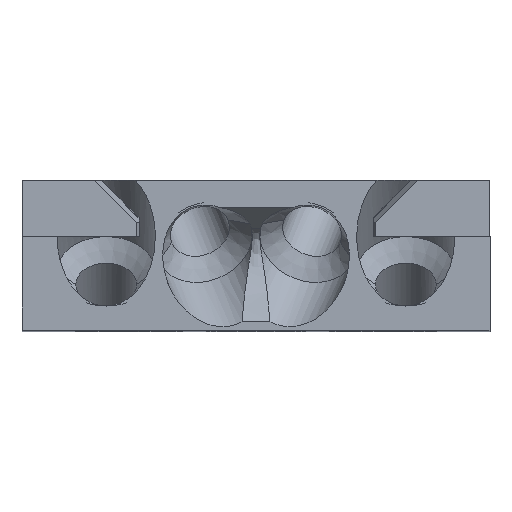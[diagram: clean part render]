
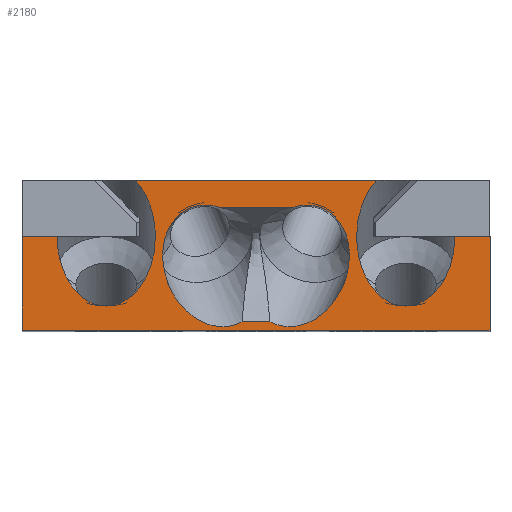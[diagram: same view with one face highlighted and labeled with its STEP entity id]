
A CAD part, top view. The second image highlights one B-rep face of the part: STEP entity #2180.
In plain terms, the highlighted planar face has unit normal (0, 0, 1).
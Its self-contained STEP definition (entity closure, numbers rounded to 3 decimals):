
#2180=ADVANCED_FACE('',(#3850,#3851),#3852,.T.);
#3850=FACE_OUTER_BOUND('',#6124,.T.);
#3851=FACE_BOUND('',#6125,.T.);
#3852=PLANE('',#6126);
#6124=EDGE_LOOP('',(#8106,#8107,#8108,#8109,#8110,#8111,#8112,#8113,#8114,#8115,#8116,#8117));
#6125=EDGE_LOOP('',(#8118,#8119,#8120,#8121,#8122,#8123));
#6126=AXIS2_PLACEMENT_3D('',#8124,#8125,#8126);
#8106=ORIENTED_EDGE('',*,*,#10119,.T.);
#8107=ORIENTED_EDGE('',*,*,#9895,.T.);
#8108=ORIENTED_EDGE('',*,*,#9875,.T.);
#8109=ORIENTED_EDGE('',*,*,#10103,.F.);
#8110=ORIENTED_EDGE('',*,*,#10079,.F.);
#8111=ORIENTED_EDGE('',*,*,#10066,.F.);
#8112=ORIENTED_EDGE('',*,*,#10097,.T.);
#8113=ORIENTED_EDGE('',*,*,#10113,.T.);
#8114=ORIENTED_EDGE('',*,*,#9834,.T.);
#8115=ORIENTED_EDGE('',*,*,#9898,.T.);
#8116=ORIENTED_EDGE('',*,*,#10120,.T.);
#8117=ORIENTED_EDGE('',*,*,#10121,.T.);
#8118=ORIENTED_EDGE('',*,*,#10122,.T.);
#8119=ORIENTED_EDGE('',*,*,#9829,.T.);
#8120=ORIENTED_EDGE('',*,*,#10123,.F.);
#8121=ORIENTED_EDGE('',*,*,#10124,.T.);
#8122=ORIENTED_EDGE('',*,*,#9823,.T.);
#8123=ORIENTED_EDGE('',*,*,#10125,.F.);
#8124=CARTESIAN_POINT('',(-25.0,0.,0.));
#8125=DIRECTION('',(0.,0.,1.0));
#8126=DIRECTION('',(1.0,0.,0.));
#9823=EDGE_CURVE('',#11370,#11368,#11371,.T.);
#9829=EDGE_CURVE('',#11379,#11377,#11380,.T.);
#9834=EDGE_CURVE('',#11384,#11386,#11388,.T.);
#9875=EDGE_CURVE('',#11447,#11451,#11453,.T.);
#9895=EDGE_CURVE('',#11482,#11447,#11484,.T.);
#9898=EDGE_CURVE('',#11386,#11486,#11488,.T.);
#10066=EDGE_CURVE('',#11740,#11717,#11742,.T.);
#10079=EDGE_CURVE('',#11717,#11759,#11760,.T.);
#10097=EDGE_CURVE('',#11740,#11784,#11786,.T.);
#10103=EDGE_CURVE('',#11759,#11451,#11793,.T.);
#10113=EDGE_CURVE('',#11784,#11384,#11810,.T.);
#10119=EDGE_CURVE('',#11817,#11482,#11818,.T.);
#10120=EDGE_CURVE('',#11486,#11819,#11820,.T.);
#10121=EDGE_CURVE('',#11819,#11817,#11821,.T.);
#10122=EDGE_CURVE('',#11822,#11379,#11823,.T.);
#10123=EDGE_CURVE('',#11824,#11377,#11825,.T.);
#10124=EDGE_CURVE('',#11824,#11370,#11826,.T.);
#10125=EDGE_CURVE('',#11822,#11368,#11827,.T.);
#11368=VERTEX_POINT('',#12392);
#11370=VERTEX_POINT('',#12402);
#11371=ELLIPSE('',#12403,6.684,5.25);
#11377=VERTEX_POINT('',#12411);
#11379=VERTEX_POINT('',#12425);
#11380=ELLIPSE('',#12426,6.684,5.25);
#11384=VERTEX_POINT('',#12431);
#11386=VERTEX_POINT('',#12434);
#11388=ELLIPSE('',#12436,7.425,5.25);
#11447=VERTEX_POINT('',#12509);
#11451=VERTEX_POINT('',#12513);
#11453=ELLIPSE('',#12516,7.425,5.25);
#11482=VERTEX_POINT('',#12551);
#11484=ELLIPSE('',#12554,7.425,5.25);
#11486=VERTEX_POINT('',#12556);
#11488=ELLIPSE('',#12559,7.425,5.25);
#11717=VERTEX_POINT('',#12856);
#11740=VERTEX_POINT('',#12888);
#11742=LINE('',#12891,#12892);
#11759=VERTEX_POINT('',#12915);
#11760=LINE('',#12916,#12917);
#11784=VERTEX_POINT('',#12952);
#11786=LINE('',#12955,#12956);
#11793=LINE('',#12966,#12967);
#11810=LINE('',#12988,#12989);
#11817=VERTEX_POINT('',#12997);
#11818=ELLIPSE('',#12998,7.425,5.25);
#11819=VERTEX_POINT('',#12999);
#11820=ELLIPSE('',#13000,7.425,5.25);
#11821=LINE('',#13001,#13002);
#11822=VERTEX_POINT('',#13003);
#11823=ELLIPSE('',#13004,6.684,5.25);
#11824=VERTEX_POINT('',#13005);
#11825=B_SPLINE_CURVE_WITH_KNOTS('',3,(#13006,#13007,#13008,#13009),.UNSPECIFIED.,.F.,.F.,(4,4),(-0.282,0.479),.UNSPECIFIED.);
#11826=ELLIPSE('',#13010,6.684,5.25);
#11827=B_SPLINE_CURVE_WITH_KNOTS('',3,(#13011,#13012,#13013,#13014,#13015,#13016),.UNSPECIFIED.,.F.,.F.,(4,2,4),(0.0,0.149,0.297),.UNSPECIFIED.);
#12392=CARTESIAN_POINT('',(1.485,0.922,0.0));
#12402=CARTESIAN_POINT('',(9.365,4.898,0.));
#12403=AXIS2_PLACEMENT_3D('',#13477,#13478,#13479);
#12411=CARTESIAN_POINT('',(-3.805,13.09,0.));
#12425=CARTESIAN_POINT('',(-9.365,4.898,0.));
#12426=AXIS2_PLACEMENT_3D('',#13485,#13486,#13487);
#12431=CARTESIAN_POINT('',(21.25,10.0,0.));
#12434=CARTESIAN_POINT('',(16.0,2.575,0.));
#12436=AXIS2_PLACEMENT_3D('',#13493,#13494,#13495);
#12509=CARTESIAN_POINT('',(-16.0,2.575,0.));
#12513=CARTESIAN_POINT('',(-21.25,10.,0.));
#12516=AXIS2_PLACEMENT_3D('',#13559,#13560,#13561);
#12551=CARTESIAN_POINT('',(-10.75,10.0,0.));
#12554=AXIS2_PLACEMENT_3D('',#13590,#13591,#13592);
#12556=CARTESIAN_POINT('',(10.75,10.0,0.));
#12559=AXIS2_PLACEMENT_3D('',#13594,#13595,#13596);
#12856=CARTESIAN_POINT('',(-25.0,0.,0.));
#12888=CARTESIAN_POINT('',(25.0,0.,0.));
#12891=CARTESIAN_POINT('',(25.0,0.,0.));
#12892=VECTOR('',#13822,10.0);
#12915=CARTESIAN_POINT('',(-25.0,10.,0.));
#12916=CARTESIAN_POINT('',(-25.0,0.,0.));
#12917=VECTOR('',#13832,10.0);
#12952=CARTESIAN_POINT('',(25.0,10.0,0.));
#12955=CARTESIAN_POINT('',(25.0,0.,0.));
#12956=VECTOR('',#13845,10.0);
#12966=CARTESIAN_POINT('',(-12.5,10.,0.));
#12967=VECTOR('',#13849,10.0);
#12988=CARTESIAN_POINT('',(-12.5,10.,0.));
#12989=VECTOR('',#13869,10.0);
#12997=CARTESIAN_POINT('',(-12.908,16.0,0.));
#12998=AXIS2_PLACEMENT_3D('',#13880,#13881,#13882);
#12999=CARTESIAN_POINT('',(12.908,16.0,0.));
#13000=AXIS2_PLACEMENT_3D('',#13883,#13884,#13885);
#13001=CARTESIAN_POINT('',(-15.293,16.0,0.0));
#13002=VECTOR('',#13886,10.0);
#13003=CARTESIAN_POINT('',(-1.485,0.922,0.0));
#13004=AXIS2_PLACEMENT_3D('',#13887,#13888,#13889);
#13005=CARTESIAN_POINT('',(3.805,13.09,0.0));
#13006=CARTESIAN_POINT('',(3.805,13.09,0.0));
#13007=CARTESIAN_POINT('',(1.268,13.09,0.0));
#13008=CARTESIAN_POINT('',(-1.268,13.09,0.0));
#13009=CARTESIAN_POINT('',(-3.805,13.09,0.));
#13010=AXIS2_PLACEMENT_3D('',#13890,#13891,#13892);
#13011=CARTESIAN_POINT('',(-1.485,0.922,0.0));
#13012=CARTESIAN_POINT('',(-0.99,0.922,0.0));
#13013=CARTESIAN_POINT('',(-0.495,0.922,0.0));
#13014=CARTESIAN_POINT('',(0.495,0.922,0.0));
#13015=CARTESIAN_POINT('',(0.99,0.922,0.0));
#13016=CARTESIAN_POINT('',(1.485,0.922,0.0));
#13477=CARTESIAN_POINT('',(4.5,6.871,0.0));
#13478=DIRECTION('',(0.,0.,-1.0));
#13479=DIRECTION('',(0.376,0.927,0.));
#13485=CARTESIAN_POINT('',(-4.5,6.871,0.));
#13486=DIRECTION('',(0.,0.,-1.0));
#13487=DIRECTION('',(-0.376,0.927,0.));
#13493=CARTESIAN_POINT('',(16.0,10.0,0.));
#13494=DIRECTION('',(0.,0.,-1.0));
#13495=DIRECTION('',(0.,-1.0,0.));
#13559=CARTESIAN_POINT('',(-16.0,10.0,0.));
#13560=DIRECTION('',(0.,0.,-1.0));
#13561=DIRECTION('',(0.,-1.0,0.));
#13590=CARTESIAN_POINT('',(-16.0,10.0,0.));
#13591=DIRECTION('',(0.,0.,-1.0));
#13592=DIRECTION('',(0.,-1.0,0.));
#13594=CARTESIAN_POINT('',(16.0,10.0,0.));
#13595=DIRECTION('',(0.,0.,-1.0));
#13596=DIRECTION('',(0.,-1.0,0.));
#13822=DIRECTION('',(-1.0,0.,0.));
#13832=DIRECTION('',(0.,1.0,0.));
#13845=DIRECTION('',(0.,1.0,0.));
#13849=DIRECTION('',(1.0,0.,0.));
#13869=DIRECTION('',(-1.0,0.,0.));
#13880=CARTESIAN_POINT('',(-16.0,10.0,0.));
#13881=DIRECTION('',(0.,0.,-1.0));
#13882=DIRECTION('',(0.,-1.0,0.));
#13883=CARTESIAN_POINT('',(16.0,10.0,0.));
#13884=DIRECTION('',(0.,0.,-1.0));
#13885=DIRECTION('',(0.,-1.0,0.));
#13886=DIRECTION('',(-1.0,0.,0.));
#13887=CARTESIAN_POINT('',(-4.5,6.871,0.));
#13888=DIRECTION('',(0.,0.,-1.0));
#13889=DIRECTION('',(-0.376,0.927,0.));
#13890=CARTESIAN_POINT('',(4.5,6.871,0.0));
#13891=DIRECTION('',(0.,0.,-1.0));
#13892=DIRECTION('',(0.376,0.927,0.));
